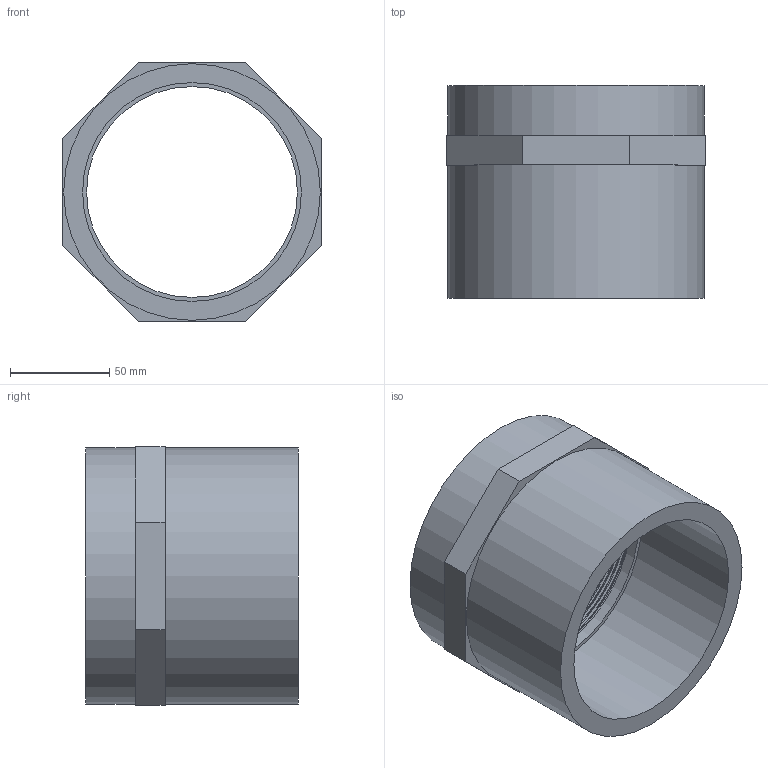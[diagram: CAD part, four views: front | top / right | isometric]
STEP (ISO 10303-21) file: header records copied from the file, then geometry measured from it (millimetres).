
FILE_DESCRIPTION(/* description */ ('(descrizione)'),/* implementation_level */ '2;1');
FILE_NAME(/* name */ 'C:\Users\POLYPIPE\Desktop\DATASET INVENTOR\LIBRERIA EFFAST\3D_RACCORDI\RGR\3D_RGRMAG\3D_RGRMAG110L 5.stp',/* time_stamp */ '2018-03-08T09:15:01+01:00',/* author */ ('POLYPIPE'),/* organization */ ('Polypipe Italia s.r.l.'),/* preprocessor_version */ 'ST-DEVELOPER v16.1',/* originating_system */ 'Autodesk Inventor 2016',/* authorisation */ '');
FILE_SCHEMA (('CONFIG_CONTROL_DESIGN'));
Length unit declared in the file: millimetre
Products named in the file (1): 3D_RGRMAG110L
Bounding box: 130 x 107 x 130 mm (x, y, z)
Volume: 388636.2 mm3; surface area: 100413 mm2
Topology: 1 solids, 1 shells, 25 faces, 56 edges, 37 vertices
Faces by surface type: plane 15, cylinder 5, bspline 5
Full cylindrical faces by diameter (mm): 106 x1, 110 x1, 113.03 x1, 129 x2
Entity records: 7275 total; most frequent: CARTESIAN_POINT 6739, ORIENTED_EDGE 100, DIRECTION 93, EDGE_CURVE 50, EDGE_LOOP 35, VERTEX_POINT 35, AXIS2_PLACEMENT_3D 33, LINE 27
